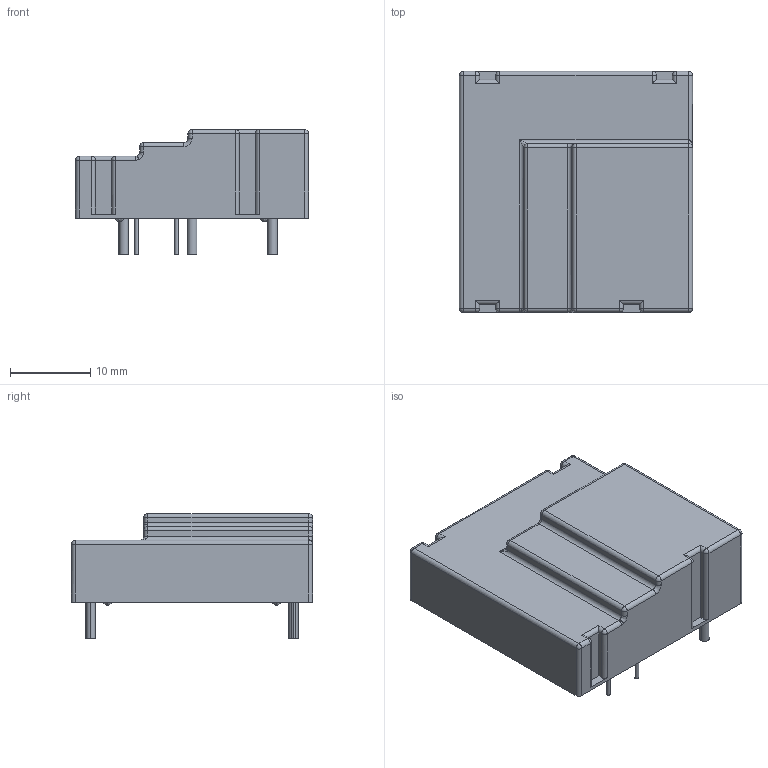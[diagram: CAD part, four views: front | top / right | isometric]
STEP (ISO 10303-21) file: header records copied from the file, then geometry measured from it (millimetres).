
FILE_DESCRIPTION((''),'2;1');
FILE_NAME('TFMOV25SL-101-20200811','2020-08-11T',('SET-01114'),(''),'PRO/ENGINEER BY PARAMETRIC TECHNOLOGY CORPORATION, 2012310','PRO/ENGINEER BY PARAMETRIC TECHNOLOGY CORPORATION, 2012310','');
FILE_SCHEMA(('CONFIG_CONTROL_DESIGN','SHAPE_APPEARANCE_LAYERS_GROUPS'));
Length unit declared in the file: millimetre
Products named in the file (1): TFMOV25SL-101-20200811
Bounding box: 29 x 30 x 15.5 mm (x, y, z)
Volume: 2319.1 mm3; surface area: 5379.2 mm2
Topology: 1 solids, 2 shells, 215 faces, 621 edges, 389 vertices
Faces by surface type: cylinder 95, plane 71, sphere 29, bspline 13, torus 7
Entity records: 9211 total; most frequent: CARTESIAN_POINT 1796, DIRECTION 1215, ORIENTED_EDGE 1178, PRESENTATION_STYLE_ASSIGNMENT 590, STYLED_ITEM 590, CURVE_STYLE 589, EDGE_CURVE 589, AXIS2_PLACEMENT_3D 473
